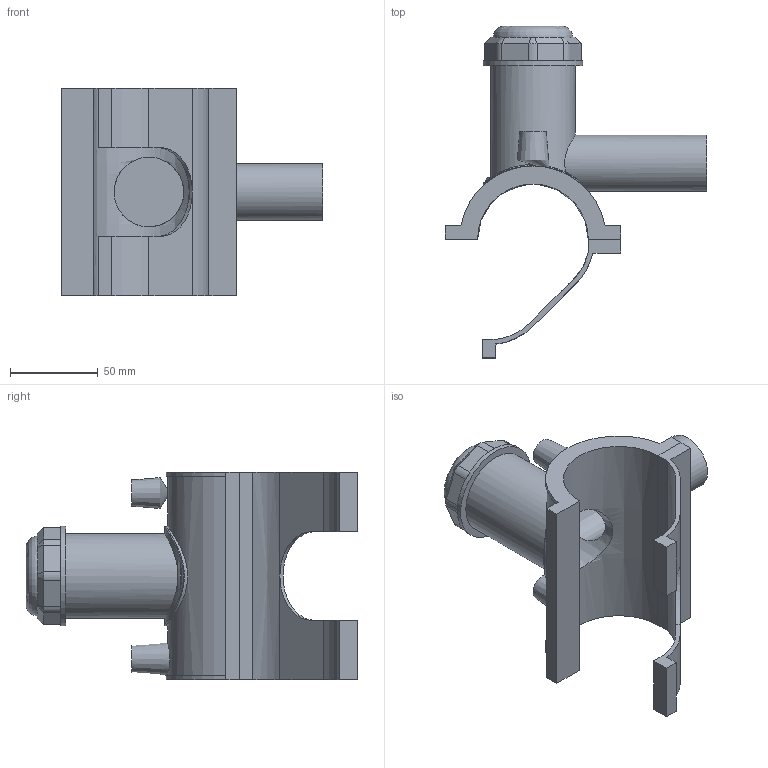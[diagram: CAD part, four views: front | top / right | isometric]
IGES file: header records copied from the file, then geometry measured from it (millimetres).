
Global section: file name: 496304063032N.ipt; native system: Autodesk Inventor 2015; preprocessor: unknown; author: KIM; date: 20190124.130636; units: millimetre
Bounding box: 149 x 188.78 x 118 mm (x, y, z)
Volume: 279561.9 mm3; surface area: 97527.2 mm2
Topology: 3 solids, 3 shells, 108 faces, 266 edges, 174 vertices
Faces by surface type: plane 64, cylinder 22, cone 11, revolution 10, bspline 1
Full cylindrical faces by diameter (mm): 4 x2, 32 x1, 48.195 x1, 56.7 x1
